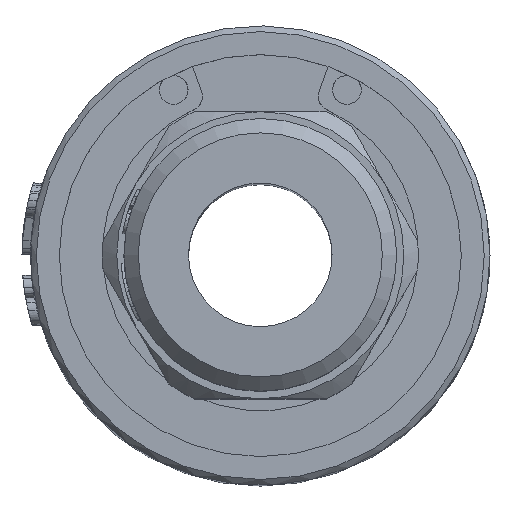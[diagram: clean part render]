
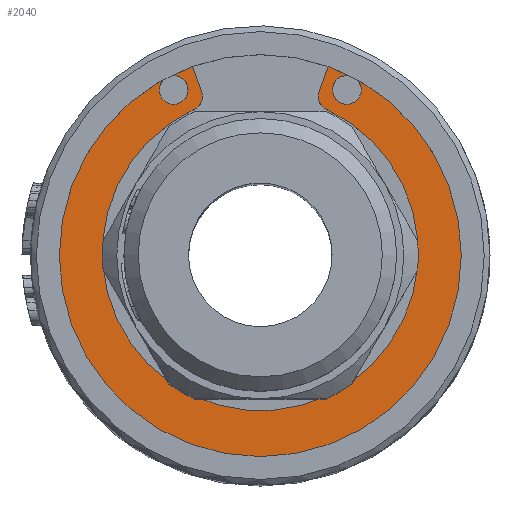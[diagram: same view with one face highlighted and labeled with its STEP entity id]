
A CAD part, top view. The second image highlights one B-rep face of the part: STEP entity #2040.
In plain terms, the highlighted planar face has unit normal (0, 0, 1).
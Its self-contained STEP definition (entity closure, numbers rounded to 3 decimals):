
#217=FACE_BOUND('',#6047,.T.);
#218=FACE_BOUND('',#6048,.T.);
#219=FACE_BOUND('',#6049,.T.);
#382=CIRCLE('',#21144,0.5);
#384=CIRCLE('',#21147,0.5);
#385=CIRCLE('',#21149,5.5);
#386=CIRCLE('',#21150,0.5);
#387=CIRCLE('',#21151,0.5);
#388=CIRCLE('',#21152,7.35);
#389=CIRCLE('',#21153,0.5);
#390=CIRCLE('',#21154,0.5);
#391=CIRCLE('',#21156,7.35);
#392=CIRCLE('',#21158,0.5);
#393=CIRCLE('',#21159,0.5);
#394=CIRCLE('',#21160,7.35);
#395=CIRCLE('',#21161,0.5);
#396=CIRCLE('',#21162,0.5);
#536=ELLIPSE('',#21155,7.35,6.5);
#537=ELLIPSE('',#21157,7.35,6.5);
#808=PLANE('',#21163);
#1193=LINE('',#39326,#3872);
#1194=LINE('',#39334,#3873);
#1195=LINE('',#39346,#3874);
#1196=LINE('',#39354,#3875);
#2040=ADVANCED_FACE('',(#217,#218,#219),#808,.F.);
#3872=VECTOR('',#23044,1.);
#3873=VECTOR('',#23051,1.);
#3874=VECTOR('',#23062,1.);
#3875=VECTOR('',#23069,1.);
#6047=EDGE_LOOP('',(#10031));
#6048=EDGE_LOOP('',(#10032,#10033,#10034,#10035,#10036,#10037,#10038,#10039,
#10040,#10041,#10042,#10043,#10044,#10045,#10046,#10047,#10048,#10049));
#6049=EDGE_LOOP('',(#10050));
#10031=ORIENTED_EDGE('',*,*,#16807,.T.);
#10032=ORIENTED_EDGE('',*,*,#16808,.F.);
#10033=ORIENTED_EDGE('',*,*,#16809,.T.);
#10034=ORIENTED_EDGE('',*,*,#16810,.T.);
#10035=ORIENTED_EDGE('',*,*,#16811,.T.);
#10036=ORIENTED_EDGE('',*,*,#16812,.F.);
#10037=ORIENTED_EDGE('',*,*,#16813,.T.);
#10038=ORIENTED_EDGE('',*,*,#16814,.T.);
#10039=ORIENTED_EDGE('',*,*,#16815,.T.);
#10040=ORIENTED_EDGE('',*,*,#16816,.F.);
#10041=ORIENTED_EDGE('',*,*,#16817,.F.);
#10042=ORIENTED_EDGE('',*,*,#16818,.T.);
#10043=ORIENTED_EDGE('',*,*,#16819,.F.);
#10044=ORIENTED_EDGE('',*,*,#16820,.F.);
#10045=ORIENTED_EDGE('',*,*,#16821,.F.);
#10046=ORIENTED_EDGE('',*,*,#16822,.T.);
#10047=ORIENTED_EDGE('',*,*,#16823,.F.);
#10048=ORIENTED_EDGE('',*,*,#16824,.F.);
#10049=ORIENTED_EDGE('',*,*,#16825,.F.);
#10050=ORIENTED_EDGE('',*,*,#16805,.F.);
#14045=VERTEX_POINT('',#39314);
#14047=VERTEX_POINT('',#39319);
#14048=VERTEX_POINT('',#39322);
#14049=VERTEX_POINT('',#39323);
#14050=VERTEX_POINT('',#39325);
#14051=VERTEX_POINT('',#39327);
#14052=VERTEX_POINT('',#39329);
#14053=VERTEX_POINT('',#39331);
#14054=VERTEX_POINT('',#39333);
#14055=VERTEX_POINT('',#39335);
#14056=VERTEX_POINT('',#39337);
#14057=VERTEX_POINT('',#39339);
#14058=VERTEX_POINT('',#39341);
#14059=VERTEX_POINT('',#39343);
#14060=VERTEX_POINT('',#39345);
#14061=VERTEX_POINT('',#39347);
#14062=VERTEX_POINT('',#39349);
#14063=VERTEX_POINT('',#39351);
#14064=VERTEX_POINT('',#39353);
#14065=VERTEX_POINT('',#39355);
#16805=EDGE_CURVE('',#14045,#14045,#382,.T.);
#16807=EDGE_CURVE('',#14047,#14047,#384,.T.);
#16808=EDGE_CURVE('',#14048,#14049,#385,.T.);
#16809=EDGE_CURVE('',#14048,#14050,#386,.T.);
#16810=EDGE_CURVE('',#14050,#14051,#1193,.T.);
#16811=EDGE_CURVE('',#14051,#14052,#387,.T.);
#16812=EDGE_CURVE('',#14053,#14052,#388,.T.);
#16813=EDGE_CURVE('',#14053,#14054,#389,.T.);
#16814=EDGE_CURVE('',#14054,#14055,#1194,.T.);
#16815=EDGE_CURVE('',#14055,#14056,#390,.T.);
#16816=EDGE_CURVE('',#14057,#14056,#536,.T.);
#16817=EDGE_CURVE('',#14058,#14057,#391,.T.);
#16818=EDGE_CURVE('',#14058,#14059,#537,.T.);
#16819=EDGE_CURVE('',#14060,#14059,#392,.T.);
#16820=EDGE_CURVE('',#14061,#14060,#1195,.T.);
#16821=EDGE_CURVE('',#14062,#14061,#393,.T.);
#16822=EDGE_CURVE('',#14062,#14063,#394,.T.);
#16823=EDGE_CURVE('',#14064,#14063,#395,.T.);
#16824=EDGE_CURVE('',#14065,#14064,#1196,.T.);
#16825=EDGE_CURVE('',#14049,#14065,#396,.T.);
#21144=AXIS2_PLACEMENT_3D('',#39313,#23030,#23031);
#21147=AXIS2_PLACEMENT_3D('',#39318,#23036,#23037);
#21149=AXIS2_PLACEMENT_3D('',#39321,#23040,#23041);
#21150=AXIS2_PLACEMENT_3D('',#39324,#23042,#23043);
#21151=AXIS2_PLACEMENT_3D('',#39328,#23045,#23046);
#21152=AXIS2_PLACEMENT_3D('',#39330,#23047,#23048);
#21153=AXIS2_PLACEMENT_3D('',#39332,#23049,#23050);
#21154=AXIS2_PLACEMENT_3D('',#39336,#23052,#23053);
#21155=AXIS2_PLACEMENT_3D('',#39338,#23054,#23055);
#21156=AXIS2_PLACEMENT_3D('',#39340,#23056,#23057);
#21157=AXIS2_PLACEMENT_3D('',#39342,#23058,#23059);
#21158=AXIS2_PLACEMENT_3D('',#39344,#23060,#23061);
#21159=AXIS2_PLACEMENT_3D('',#39348,#23063,#23064);
#21160=AXIS2_PLACEMENT_3D('',#39350,#23065,#23066);
#21161=AXIS2_PLACEMENT_3D('',#39352,#23067,#23068);
#21162=AXIS2_PLACEMENT_3D('',#39356,#23070,#23071);
#21163=AXIS2_PLACEMENT_3D('',#39357,#23072,#23073);
#23030=DIRECTION('',(0.,0.,1.));
#23031=DIRECTION('',(1.,0.,0.));
#23036=DIRECTION('',(0.,0.,-1.));
#23037=DIRECTION('',(-1.,0.,0.));
#23040=DIRECTION('',(0.,0.,1.));
#23041=DIRECTION('',(-1.,0.,0.));
#23042=DIRECTION('',(0.,0.,1.));
#23043=DIRECTION('',(-1.,0.,0.));
#23044=DIRECTION('',(-0.342,0.94,0.));
#23045=DIRECTION('',(0.,0.,1.));
#23046=DIRECTION('',(-1.,0.,0.));
#23047=DIRECTION('',(0.,0.,-1.));
#23048=DIRECTION('',(1.,0.,0.));
#23049=DIRECTION('',(0.,0.,1.));
#23050=DIRECTION('',(-1.,0.,0.));
#23051=DIRECTION('',(0.,-1.,0.));
#23052=DIRECTION('',(0.,0.,-1.));
#23053=DIRECTION('',(-1.,0.,0.));
#23054=DIRECTION('',(0.,0.,-1.));
#23055=DIRECTION('',(1.,0.,0.));
#23056=DIRECTION('',(0.,0.,-1.));
#23057=DIRECTION('',(-1.,0.,0.));
#23058=DIRECTION('',(0.,0.,1.));
#23059=DIRECTION('',(-1.,0.,0.));
#23060=DIRECTION('',(0.,0.,1.));
#23061=DIRECTION('',(1.,0.,0.));
#23062=DIRECTION('',(0.,-1.,0.));
#23063=DIRECTION('',(0.,0.,-1.));
#23064=DIRECTION('',(1.,0.,0.));
#23065=DIRECTION('',(0.,0.,1.));
#23066=DIRECTION('',(-1.,0.,0.));
#23067=DIRECTION('',(0.,0.,-1.));
#23068=DIRECTION('',(1.,0.,0.));
#23069=DIRECTION('',(0.342,0.94,0.));
#23070=DIRECTION('',(0.,0.,-1.));
#23071=DIRECTION('',(1.,0.,0.));
#23072=DIRECTION('',(0.,0.,-1.));
#23073=DIRECTION('',(1.,0.,0.));
#39313=CARTESIAN_POINT('',(3.016,5.773,23.4));
#39314=CARTESIAN_POINT('',(3.516,5.773,23.4));
#39318=CARTESIAN_POINT('',(-3.016,5.773,23.4));
#39319=CARTESIAN_POINT('',(-3.516,5.773,23.4));
#39321=CARTESIAN_POINT('',(0.,0.1,23.4));
#39322=CARTESIAN_POINT('',(-2.305,5.094,23.4));
#39323=CARTESIAN_POINT('',(2.305,5.094,23.4));
#39324=CARTESIAN_POINT('',(-2.515,5.548,23.4));
#39325=CARTESIAN_POINT('',(-2.045,5.719,23.4));
#39326=CARTESIAN_POINT('',(0.,0.1,23.4));
#39327=CARTESIAN_POINT('',(-2.337,6.52,23.4));
#39328=CARTESIAN_POINT('',(-2.806,6.349,23.4));
#39329=CARTESIAN_POINT('',(-3.011,6.805,23.4));
#39330=CARTESIAN_POINT('',(0.,0.1,23.4));
#39331=CARTESIAN_POINT('',(-5.04,5.45,23.4));
#39332=CARTESIAN_POINT('',(-4.697,5.086,23.4));
#39333=CARTESIAN_POINT('',(-5.197,5.086,23.4));
#39334=CARTESIAN_POINT('',(-5.197,0.1,23.4));
#39335=CARTESIAN_POINT('',(-5.197,4.917,23.4));
#39336=CARTESIAN_POINT('',(-5.697,4.917,23.4));
#39337=CARTESIAN_POINT('',(-5.355,4.553,23.4));
#39338=CARTESIAN_POINT('',(0.,0.1,23.4));
#39339=CARTESIAN_POINT('',(-7.35,0.1,23.4));
#39340=CARTESIAN_POINT('',(0.,0.1,23.4));
#39341=CARTESIAN_POINT('',(7.35,0.1,23.4));
#39342=CARTESIAN_POINT('',(0.,0.1,23.4));
#39343=CARTESIAN_POINT('',(5.355,4.553,23.4));
#39344=CARTESIAN_POINT('',(5.697,4.917,23.4));
#39345=CARTESIAN_POINT('',(5.197,4.917,23.4));
#39346=CARTESIAN_POINT('',(5.197,0.1,23.4));
#39347=CARTESIAN_POINT('',(5.197,5.086,23.4));
#39348=CARTESIAN_POINT('',(4.697,5.086,23.4));
#39349=CARTESIAN_POINT('',(5.04,5.45,23.4));
#39350=CARTESIAN_POINT('',(0.,0.1,23.4));
#39351=CARTESIAN_POINT('',(3.011,6.805,23.4));
#39352=CARTESIAN_POINT('',(2.806,6.349,23.4));
#39353=CARTESIAN_POINT('',(2.337,6.52,23.4));
#39354=CARTESIAN_POINT('',(0.,0.1,23.4));
#39355=CARTESIAN_POINT('',(2.045,5.719,23.4));
#39356=CARTESIAN_POINT('',(2.515,5.548,23.4));
#39357=CARTESIAN_POINT('',(0.,0.1,23.4));
